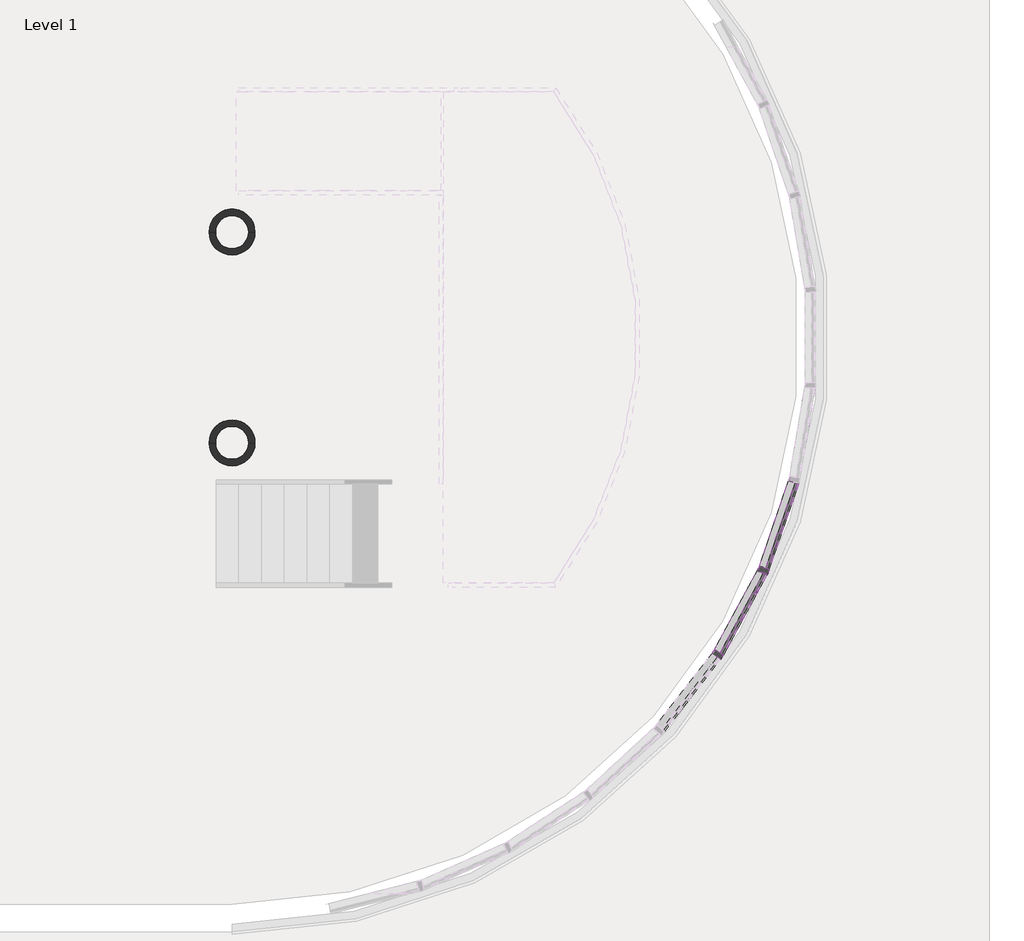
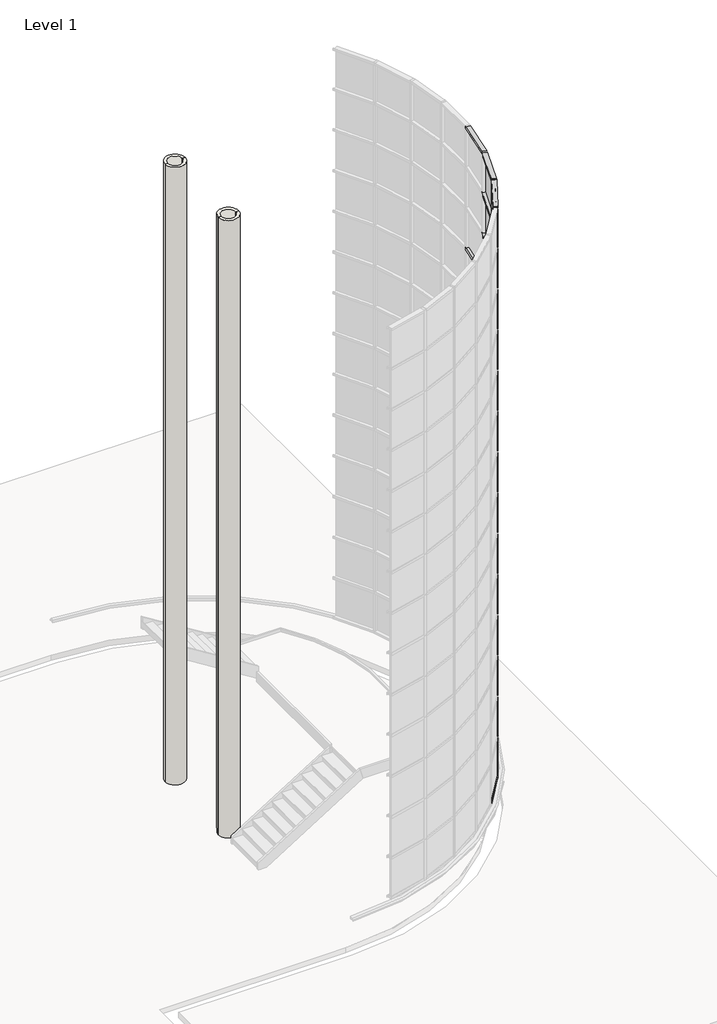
# One storey, part 7 of 20: 71 members, 28 plates, 4 walls.
"""IFC4 building model written with IfcOpenShell, lengths in millimetres."""

from ifc_helpers import new_model, si_unit, point, frame_2d, origin, origin_with_axes, place, context, project, spatial, polyline, circle_curve, trimmed, segment, composite_curve, outline, extrude, transform, mapped, element, save
from components import member_68fe8548, member_f830fa99, member_935f61b8, system_panel_glazed_da602fa6, system_panel_glazed_77fd207e

model = new_model("IFC4")

# Units and contexts
model_context = context("Model", 3, world=origin())
ifc_project = project(units=[si_unit("LENGTHUNIT", "METRE", prefix="MILLI")], contexts=[model_context])

# Site, building, storey
site = spatial("IfcSite", under=ifc_project)
building = spatial("IfcBuilding", under=site)
storey = spatial("IfcBuildingStorey", under=building, Name="Level 1", Elevation=0.0)

# Members
placement = place(None, origin())
member_shape = member_68fe8548(model_context)
element("IfcMember", 1, ObjectType="Rectangular Mullion : 2.5\" x 5\" rectangular", at=placement, inside=storey, context=model_context, shape_type="MappedRepresentation", body=[
    mapped(member_shape, transform((24863.6962317, -4227.0110197, 17983.2), x_axis=(0.0, 0.0, 1.0), y_axis=(-0.9863613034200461, 0.16459459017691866, 0.0), z_axis=(-0.16459459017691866, -0.9863613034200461, 0.0))),
])
element("IfcMember", 2, ObjectType="Rectangular Mullion : 2.5\" x 5\" rectangular", at=placement, inside=storey, context=model_context, shape_type="MappedRepresentation", body=[
    mapped(member_shape, transform((24485.9375128, -5343.4790843, 17983.2), x_axis=(0.0, 0.0, 1.0), y_axis=(-0.9458172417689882, 0.3246994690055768, 0.0), z_axis=(-0.3246994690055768, -0.9458172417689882, 0.0))),
])
element("IfcMember", 3, ObjectType="Rectangular Mullion : 2.5\" x 5\" rectangular", at=placement, inside=storey, context=model_context, shape_type="MappedRepresentation", body=[
    mapped(member_shape, transform((23929.566327, -6382.5429382, 17983.2), x_axis=(0.0, 0.0, 1.0), y_axis=(-0.879473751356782, 0.47594739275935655, 0.0), z_axis=(-0.47594739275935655, -0.879473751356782, 0.0))),
])
element("IfcMember", 4, ObjectType="Rectangular Mullion : 2.5\" x 5\" rectangular", at=placement, inside=storey, context=model_context, shape_type="MappedRepresentation", body=[
    mapped(member_shape, transform((24848.1611453, -4288.3576885, 1092.2), x_axis=(0.0, 0.0, -1.0), y_axis=(-0.9458172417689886, 0.3246994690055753, 0.0), z_axis=(0.3246994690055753, 0.9458172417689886, 0.0))),
])
element("IfcMember", 5, ObjectType="Rectangular Mullion : 2.5\" x 5\" rectangular", at=placement, inside=storey, context=model_context, shape_type="MappedRepresentation", body=[
    mapped(member_shape, transform((24460.516975, -5401.4320734, 1092.2), x_axis=(0.0, 0.0, -1.0), y_axis=(-0.879473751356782, 0.47594739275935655, 0.0), z_axis=(0.47594739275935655, 0.879473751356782, 0.0))),
])
element("IfcMember", 6, ObjectType="Rectangular Mullion : 2.5\" x 5\" rectangular", at=placement, inside=storey, context=model_context, shape_type="MappedRepresentation", body=[
    mapped(member_shape, transform((23894.9537437, -6435.521441, 1092.2), x_axis=(0.0, 0.0, -1.0), y_axis=(-0.7891405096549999, 0.6142127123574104, 0.0), z_axis=(0.6142127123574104, 0.7891405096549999, 0.0))),
])
member_2_shape = member_f830fa99(model_context)
element("IfcMember", 7, ObjectType="Rectangular Mullion : 2.5\" x 5\" rectangular", at=placement, inside=storey, context=model_context, shape_type="MappedRepresentation", body=[
    mapped(member_2_shape, transform((24863.6962317, -4227.0110197, 2298.7), x_axis=(0.0, 0.0, 1.0), y_axis=(-0.9863613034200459, 0.16459459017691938, 0.0), z_axis=(-0.16459459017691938, -0.9863613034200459, 0.0))),
])
element("IfcMember", 8, ObjectType="Rectangular Mullion : 2.5\" x 5\" rectangular", at=placement, inside=storey, context=model_context, shape_type="MappedRepresentation", body=[
    mapped(member_2_shape, transform((24485.9375128, -5343.4790843, 2298.7), x_axis=(0.0, 0.0, 1.0), y_axis=(-0.9458172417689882, 0.3246994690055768, 0.0), z_axis=(-0.3246994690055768, -0.9458172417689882, 0.0))),
])
element("IfcMember", 9, ObjectType="Rectangular Mullion : 2.5\" x 5\" rectangular", at=placement, inside=storey, context=model_context, shape_type="MappedRepresentation", body=[
    mapped(member_2_shape, transform((23929.566327, -6382.5429382, 2298.7), x_axis=(0.0, 0.0, 1.0), y_axis=(-0.879473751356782, 0.47594739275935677, 0.0), z_axis=(-0.47594739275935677, -0.879473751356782, 0.0))),
])
element("IfcMember", 10, ObjectType="Rectangular Mullion : 2.5\" x 5\" rectangular", at=placement, inside=storey, context=model_context, shape_type="MappedRepresentation", body=[
    mapped(member_2_shape, transform((24863.6962317, -4227.0110197, 3505.2), x_axis=(0.0, 0.0, 1.0), y_axis=(-0.9863613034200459, 0.16459459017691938, 0.0), z_axis=(-0.16459459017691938, -0.9863613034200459, 0.0))),
])
element("IfcMember", 11, ObjectType="Rectangular Mullion : 2.5\" x 5\" rectangular", at=placement, inside=storey, context=model_context, shape_type="MappedRepresentation", body=[
    mapped(member_2_shape, transform((24485.9375128, -5343.4790843, 3505.2), x_axis=(0.0, 0.0, 1.0), y_axis=(-0.9458172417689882, 0.3246994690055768, 0.0), z_axis=(-0.3246994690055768, -0.9458172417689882, 0.0))),
])
element("IfcMember", 12, ObjectType="Rectangular Mullion : 2.5\" x 5\" rectangular", at=placement, inside=storey, context=model_context, shape_type="MappedRepresentation", body=[
    mapped(member_2_shape, transform((23929.566327, -6382.5429382, 3505.2), x_axis=(0.0, 0.0, 1.0), y_axis=(-0.879473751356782, 0.47594739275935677, 0.0), z_axis=(-0.47594739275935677, -0.879473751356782, 0.0))),
])
element("IfcMember", 13, ObjectType="Rectangular Mullion : 2.5\" x 5\" rectangular", at=placement, inside=storey, context=model_context, shape_type="MappedRepresentation", body=[
    mapped(member_2_shape, transform((24863.6962317, -4227.0110197, 4711.7), x_axis=(0.0, 0.0, 1.0), y_axis=(-0.9863613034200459, 0.16459459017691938, 0.0), z_axis=(-0.16459459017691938, -0.9863613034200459, 0.0))),
])
element("IfcMember", 14, ObjectType="Rectangular Mullion : 2.5\" x 5\" rectangular", at=placement, inside=storey, context=model_context, shape_type="MappedRepresentation", body=[
    mapped(member_2_shape, transform((24485.9375128, -5343.4790843, 4711.7), x_axis=(0.0, 0.0, 1.0), y_axis=(-0.9458172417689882, 0.3246994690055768, 0.0), z_axis=(-0.3246994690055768, -0.9458172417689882, 0.0))),
])
element("IfcMember", 15, ObjectType="Rectangular Mullion : 2.5\" x 5\" rectangular", at=placement, inside=storey, context=model_context, shape_type="MappedRepresentation", body=[
    mapped(member_2_shape, transform((23929.566327, -6382.5429382, 4711.7), x_axis=(0.0, 0.0, 1.0), y_axis=(-0.879473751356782, 0.47594739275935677, 0.0), z_axis=(-0.47594739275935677, -0.879473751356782, 0.0))),
])
element("IfcMember", 16, ObjectType="Rectangular Mullion : 2.5\" x 5\" rectangular", at=placement, inside=storey, context=model_context, shape_type="MappedRepresentation", body=[
    mapped(member_2_shape, transform((24863.6962317, -4227.0110197, 5918.2), x_axis=(0.0, 0.0, 1.0), y_axis=(-0.9863613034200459, 0.16459459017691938, 0.0), z_axis=(-0.16459459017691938, -0.9863613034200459, 0.0))),
])
element("IfcMember", 17, ObjectType="Rectangular Mullion : 2.5\" x 5\" rectangular", at=placement, inside=storey, context=model_context, shape_type="MappedRepresentation", body=[
    mapped(member_2_shape, transform((24485.9375128, -5343.4790843, 5918.2), x_axis=(0.0, 0.0, 1.0), y_axis=(-0.9458172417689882, 0.3246994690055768, 0.0), z_axis=(-0.3246994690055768, -0.9458172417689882, 0.0))),
])
element("IfcMember", 18, ObjectType="Rectangular Mullion : 2.5\" x 5\" rectangular", at=placement, inside=storey, context=model_context, shape_type="MappedRepresentation", body=[
    mapped(member_2_shape, transform((23929.566327, -6382.5429382, 5918.2), x_axis=(0.0, 0.0, 1.0), y_axis=(-0.879473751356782, 0.47594739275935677, 0.0), z_axis=(-0.47594739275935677, -0.879473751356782, 0.0))),
])
element("IfcMember", 19, ObjectType="Rectangular Mullion : 2.5\" x 5\" rectangular", at=placement, inside=storey, context=model_context, shape_type="MappedRepresentation", body=[
    mapped(member_2_shape, transform((24863.6962317, -4227.0110197, 7124.7), x_axis=(0.0, 0.0, 1.0), y_axis=(-0.9863613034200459, 0.1645945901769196, 0.0), z_axis=(-0.1645945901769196, -0.9863613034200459, 0.0))),
])
element("IfcMember", 20, ObjectType="Rectangular Mullion : 2.5\" x 5\" rectangular", at=placement, inside=storey, context=model_context, shape_type="MappedRepresentation", body=[
    mapped(member_2_shape, transform((24485.9375128, -5343.4790843, 7124.7), x_axis=(0.0, 0.0, 1.0), y_axis=(-0.9458172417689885, 0.32469946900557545, 0.0), z_axis=(-0.32469946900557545, -0.9458172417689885, 0.0))),
])
element("IfcMember", 21, ObjectType="Rectangular Mullion : 2.5\" x 5\" rectangular", at=placement, inside=storey, context=model_context, shape_type="MappedRepresentation", body=[
    mapped(member_2_shape, transform((23929.566327, -6382.5429382, 7124.7), x_axis=(0.0, 0.0, 1.0), y_axis=(-0.879473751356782, 0.47594739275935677, 0.0), z_axis=(-0.47594739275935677, -0.879473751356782, 0.0))),
])
element("IfcMember", 22, ObjectType="Rectangular Mullion : 2.5\" x 5\" rectangular", at=placement, inside=storey, context=model_context, shape_type="MappedRepresentation", body=[
    mapped(member_2_shape, transform((24863.6962317, -4227.0110197, 8331.2), x_axis=(0.0, 0.0, 1.0), y_axis=(-0.9863613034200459, 0.1645945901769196, 0.0), z_axis=(-0.1645945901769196, -0.9863613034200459, 0.0))),
])
element("IfcMember", 23, ObjectType="Rectangular Mullion : 2.5\" x 5\" rectangular", at=placement, inside=storey, context=model_context, shape_type="MappedRepresentation", body=[
    mapped(member_2_shape, transform((24485.9375128, -5343.4790843, 8331.2), x_axis=(0.0, 0.0, 1.0), y_axis=(-0.9458172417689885, 0.32469946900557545, 0.0), z_axis=(-0.32469946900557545, -0.9458172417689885, 0.0))),
])
element("IfcMember", 24, ObjectType="Rectangular Mullion : 2.5\" x 5\" rectangular", at=placement, inside=storey, context=model_context, shape_type="MappedRepresentation", body=[
    mapped(member_2_shape, transform((23929.566327, -6382.5429382, 8331.2), x_axis=(0.0, 0.0, 1.0), y_axis=(-0.879473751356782, 0.47594739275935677, 0.0), z_axis=(-0.47594739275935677, -0.879473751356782, 0.0))),
])
element("IfcMember", 25, ObjectType="Rectangular Mullion : 2.5\" x 5\" rectangular", at=placement, inside=storey, context=model_context, shape_type="MappedRepresentation", body=[
    mapped(member_2_shape, transform((24863.6962317, -4227.0110197, 9537.7), x_axis=(0.0, 0.0, 1.0), y_axis=(-0.9863613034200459, 0.1645945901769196, 0.0), z_axis=(-0.1645945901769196, -0.9863613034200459, 0.0))),
])
element("IfcMember", 26, ObjectType="Rectangular Mullion : 2.5\" x 5\" rectangular", at=placement, inside=storey, context=model_context, shape_type="MappedRepresentation", body=[
    mapped(member_2_shape, transform((24485.9375128, -5343.4790843, 9537.7), x_axis=(0.0, 0.0, 1.0), y_axis=(-0.9458172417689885, 0.32469946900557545, 0.0), z_axis=(-0.32469946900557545, -0.9458172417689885, 0.0))),
])
element("IfcMember", 27, ObjectType="Rectangular Mullion : 2.5\" x 5\" rectangular", at=placement, inside=storey, context=model_context, shape_type="MappedRepresentation", body=[
    mapped(member_2_shape, transform((23929.566327, -6382.5429382, 9537.7), x_axis=(0.0, 0.0, 1.0), y_axis=(-0.879473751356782, 0.47594739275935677, 0.0), z_axis=(-0.47594739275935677, -0.879473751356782, 0.0))),
])
element("IfcMember", 28, ObjectType="Rectangular Mullion : 2.5\" x 5\" rectangular", at=placement, inside=storey, context=model_context, shape_type="MappedRepresentation", body=[
    mapped(member_2_shape, transform((24863.6962317, -4227.0110197, 10744.2), x_axis=(0.0, 0.0, 1.0), y_axis=(-0.9863613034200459, 0.1645945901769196, 0.0), z_axis=(-0.1645945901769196, -0.9863613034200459, 0.0))),
])
element("IfcMember", 29, ObjectType="Rectangular Mullion : 2.5\" x 5\" rectangular", at=placement, inside=storey, context=model_context, shape_type="MappedRepresentation", body=[
    mapped(member_2_shape, transform((24485.9375128, -5343.4790843, 10744.2), x_axis=(0.0, 0.0, 1.0), y_axis=(-0.9458172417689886, 0.3246994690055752, 0.0), z_axis=(-0.3246994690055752, -0.9458172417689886, 0.0))),
])
element("IfcMember", 30, ObjectType="Rectangular Mullion : 2.5\" x 5\" rectangular", at=placement, inside=storey, context=model_context, shape_type="MappedRepresentation", body=[
    mapped(member_2_shape, transform((23929.566327, -6382.5429382, 10744.2), x_axis=(0.0, 0.0, 1.0), y_axis=(-0.8794737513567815, 0.47594739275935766, 0.0), z_axis=(-0.47594739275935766, -0.8794737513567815, 0.0))),
])
element("IfcMember", 31, ObjectType="Rectangular Mullion : 2.5\" x 5\" rectangular", at=placement, inside=storey, context=model_context, shape_type="MappedRepresentation", body=[
    mapped(member_2_shape, transform((24863.6962317, -4227.0110197, 11950.7), x_axis=(0.0, 0.0, 1.0), y_axis=(-0.9863613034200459, 0.1645945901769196, 0.0), z_axis=(-0.1645945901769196, -0.9863613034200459, 0.0))),
])
element("IfcMember", 32, ObjectType="Rectangular Mullion : 2.5\" x 5\" rectangular", at=placement, inside=storey, context=model_context, shape_type="MappedRepresentation", body=[
    mapped(member_2_shape, transform((24485.9375128, -5343.4790843, 11950.7), x_axis=(0.0, 0.0, 1.0), y_axis=(-0.9458172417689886, 0.3246994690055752, 0.0), z_axis=(-0.3246994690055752, -0.9458172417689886, 0.0))),
])
element("IfcMember", 33, ObjectType="Rectangular Mullion : 2.5\" x 5\" rectangular", at=placement, inside=storey, context=model_context, shape_type="MappedRepresentation", body=[
    mapped(member_2_shape, transform((23929.566327, -6382.5429382, 11950.7), x_axis=(0.0, 0.0, 1.0), y_axis=(-0.8794737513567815, 0.47594739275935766, 0.0), z_axis=(-0.47594739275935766, -0.8794737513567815, 0.0))),
])
element("IfcMember", 34, ObjectType="Rectangular Mullion : 2.5\" x 5\" rectangular", at=placement, inside=storey, context=model_context, shape_type="MappedRepresentation", body=[
    mapped(member_2_shape, transform((24863.6962317, -4227.0110197, 13157.2), x_axis=(0.0, 0.0, 1.0), y_axis=(-0.9863613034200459, 0.1645945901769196, 0.0), z_axis=(-0.1645945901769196, -0.9863613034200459, 0.0))),
])
element("IfcMember", 35, ObjectType="Rectangular Mullion : 2.5\" x 5\" rectangular", at=placement, inside=storey, context=model_context, shape_type="MappedRepresentation", body=[
    mapped(member_2_shape, transform((24485.9375128, -5343.4790843, 13157.2), x_axis=(0.0, 0.0, 1.0), y_axis=(-0.9458172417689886, 0.3246994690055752, 0.0), z_axis=(-0.3246994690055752, -0.9458172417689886, 0.0))),
])
element("IfcMember", 36, ObjectType="Rectangular Mullion : 2.5\" x 5\" rectangular", at=placement, inside=storey, context=model_context, shape_type="MappedRepresentation", body=[
    mapped(member_2_shape, transform((23929.566327, -6382.5429382, 13157.2), x_axis=(0.0, 0.0, 1.0), y_axis=(-0.8794737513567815, 0.47594739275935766, 0.0), z_axis=(-0.47594739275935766, -0.8794737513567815, 0.0))),
])
element("IfcMember", 37, ObjectType="Rectangular Mullion : 2.5\" x 5\" rectangular", at=placement, inside=storey, context=model_context, shape_type="MappedRepresentation", body=[
    mapped(member_2_shape, transform((24863.6962317, -4227.0110197, 14363.7), x_axis=(0.0, 0.0, 1.0), y_axis=(-0.9863613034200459, 0.1645945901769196, 0.0), z_axis=(-0.1645945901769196, -0.9863613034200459, 0.0))),
])
element("IfcMember", 38, ObjectType="Rectangular Mullion : 2.5\" x 5\" rectangular", at=placement, inside=storey, context=model_context, shape_type="MappedRepresentation", body=[
    mapped(member_2_shape, transform((24485.9375128, -5343.4790843, 14363.7), x_axis=(0.0, 0.0, 1.0), y_axis=(-0.9458172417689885, 0.32469946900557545, 0.0), z_axis=(-0.32469946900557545, -0.9458172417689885, 0.0))),
])
element("IfcMember", 39, ObjectType="Rectangular Mullion : 2.5\" x 5\" rectangular", at=placement, inside=storey, context=model_context, shape_type="MappedRepresentation", body=[
    mapped(member_2_shape, transform((23929.566327, -6382.5429382, 14363.7), x_axis=(0.0, 0.0, 1.0), y_axis=(-0.879473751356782, 0.47594739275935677, 0.0), z_axis=(-0.47594739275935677, -0.879473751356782, 0.0))),
])
element("IfcMember", 40, ObjectType="Rectangular Mullion : 2.5\" x 5\" rectangular", at=placement, inside=storey, context=model_context, shape_type="MappedRepresentation", body=[
    mapped(member_2_shape, transform((24485.9375128, -5343.4790843, 15570.2), x_axis=(0.0, 0.0, 1.0), y_axis=(-0.9458172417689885, 0.32469946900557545, 0.0), z_axis=(-0.32469946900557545, -0.9458172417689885, 0.0))),
])
element("IfcMember", 41, ObjectType="Rectangular Mullion : 2.5\" x 5\" rectangular", at=placement, inside=storey, context=model_context, shape_type="MappedRepresentation", body=[
    mapped(member_2_shape, transform((23929.566327, -6382.5429382, 15570.2), x_axis=(0.0, 0.0, 1.0), y_axis=(-0.879473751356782, 0.47594739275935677, 0.0), z_axis=(-0.47594739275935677, -0.879473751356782, 0.0))),
])
element("IfcMember", 42, ObjectType="Rectangular Mullion : 2.5\" x 5\" rectangular", at=placement, inside=storey, context=model_context, shape_type="MappedRepresentation", body=[
    mapped(member_2_shape, transform((24485.9375128, -5343.4790843, 16776.7), x_axis=(0.0, 0.0, 1.0), y_axis=(-0.9458172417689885, 0.32469946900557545, 0.0), z_axis=(-0.32469946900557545, -0.9458172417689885, 0.0))),
])
element("IfcMember", 43, ObjectType="Rectangular Mullion : 2.5\" x 5\" rectangular", at=placement, inside=storey, context=model_context, shape_type="MappedRepresentation", body=[
    mapped(member_2_shape, transform((23929.566327, -6382.5429382, 16776.7), x_axis=(0.0, 0.0, 1.0), y_axis=(-0.879473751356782, 0.47594739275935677, 0.0), z_axis=(-0.47594739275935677, -0.879473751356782, 0.0))),
])
member_3_shape = member_935f61b8(model_context)
element("IfcMember", 44, ObjectType="Rectangular Mullion : 2.5\" x 5\" rectangular", at=placement, inside=storey, context=model_context, shape_type="MappedRepresentation", body=[
    mapped(member_3_shape, transform((24475.6283047, -5373.5087818, 1092.2), x_axis=(-0.4016954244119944, -0.915773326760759, 0.0), y_axis=(-0.915773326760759, 0.4016954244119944, 0.0), z_axis=(0.0, 0.0, -1.0))),
])
element("IfcMember", 45, ObjectType="Rectangular Mullion : 2.5\" x 5\" rectangular", at=placement, inside=storey, context=model_context, shape_type="MappedRepresentation", body=[
    mapped(member_3_shape, transform((23914.4549973, -6410.4662299, 1092.2), x_axis=(-0.5469481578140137, -0.8371664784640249, 0.0), y_axis=(-0.8371664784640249, 0.5469481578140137, 0.0), z_axis=(0.0, 0.0, -1.0))),
])
element("IfcMember", 46, ObjectType="Rectangular Mullion : 2.5\" x 5\" rectangular", at=placement, inside=storey, context=model_context, shape_type="MappedRepresentation", body=[
    mapped(member_3_shape, transform((24475.6283047, -5373.5087818, 2298.7), x_axis=(-0.4016954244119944, -0.915773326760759, 0.0), y_axis=(-0.915773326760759, 0.4016954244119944, 0.0), z_axis=(0.0, 0.0, -1.0))),
])
element("IfcMember", 47, ObjectType="Rectangular Mullion : 2.5\" x 5\" rectangular", at=placement, inside=storey, context=model_context, shape_type="MappedRepresentation", body=[
    mapped(member_3_shape, transform((23914.4549973, -6410.4662299, 2298.7), x_axis=(-0.5469481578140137, -0.8371664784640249, 0.0), y_axis=(-0.8371664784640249, 0.5469481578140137, 0.0), z_axis=(0.0, 0.0, -1.0))),
])
element("IfcMember", 48, ObjectType="Rectangular Mullion : 2.5\" x 5\" rectangular", at=placement, inside=storey, context=model_context, shape_type="MappedRepresentation", body=[
    mapped(member_3_shape, transform((24475.6283047, -5373.5087818, 3505.2), x_axis=(-0.4016954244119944, -0.915773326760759, 0.0), y_axis=(-0.915773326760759, 0.4016954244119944, 0.0), z_axis=(0.0, 0.0, -1.0))),
])
element("IfcMember", 49, ObjectType="Rectangular Mullion : 2.5\" x 5\" rectangular", at=placement, inside=storey, context=model_context, shape_type="MappedRepresentation", body=[
    mapped(member_3_shape, transform((23914.4549973, -6410.4662299, 3505.2), x_axis=(-0.5469481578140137, -0.8371664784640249, 0.0), y_axis=(-0.8371664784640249, 0.5469481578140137, 0.0), z_axis=(0.0, 0.0, -1.0))),
])
element("IfcMember", 50, ObjectType="Rectangular Mullion : 2.5\" x 5\" rectangular", at=placement, inside=storey, context=model_context, shape_type="MappedRepresentation", body=[
    mapped(member_3_shape, transform((24475.6283047, -5373.5087818, 4711.7), x_axis=(-0.4016954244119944, -0.915773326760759, 0.0), y_axis=(-0.915773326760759, 0.4016954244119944, 0.0), z_axis=(0.0, 0.0, -1.0))),
])
element("IfcMember", 51, ObjectType="Rectangular Mullion : 2.5\" x 5\" rectangular", at=placement, inside=storey, context=model_context, shape_type="MappedRepresentation", body=[
    mapped(member_3_shape, transform((23914.4549973, -6410.4662299, 4711.7), x_axis=(-0.5469481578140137, -0.8371664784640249, 0.0), y_axis=(-0.8371664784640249, 0.5469481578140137, 0.0), z_axis=(0.0, 0.0, -1.0))),
])
element("IfcMember", 52, ObjectType="Rectangular Mullion : 2.5\" x 5\" rectangular", at=placement, inside=storey, context=model_context, shape_type="MappedRepresentation", body=[
    mapped(member_3_shape, transform((24475.6283047, -5373.5087818, 5918.2), x_axis=(-0.4016954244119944, -0.915773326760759, 0.0), y_axis=(-0.915773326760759, 0.4016954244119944, 0.0), z_axis=(0.0, 0.0, -1.0))),
])
element("IfcMember", 53, ObjectType="Rectangular Mullion : 2.5\" x 5\" rectangular", at=placement, inside=storey, context=model_context, shape_type="MappedRepresentation", body=[
    mapped(member_3_shape, transform((23914.4549973, -6410.4662299, 5918.2), x_axis=(-0.5469481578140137, -0.8371664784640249, 0.0), y_axis=(-0.8371664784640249, 0.5469481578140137, 0.0), z_axis=(0.0, 0.0, -1.0))),
])
element("IfcMember", 54, ObjectType="Rectangular Mullion : 2.5\" x 5\" rectangular", at=placement, inside=storey, context=model_context, shape_type="MappedRepresentation", body=[
    mapped(member_3_shape, transform((24475.6283047, -5373.5087818, 7124.7), x_axis=(-0.4016954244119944, -0.915773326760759, 0.0), y_axis=(-0.915773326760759, 0.4016954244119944, 0.0), z_axis=(0.0, 0.0, -1.0))),
])
element("IfcMember", 55, ObjectType="Rectangular Mullion : 2.5\" x 5\" rectangular", at=placement, inside=storey, context=model_context, shape_type="MappedRepresentation", body=[
    mapped(member_3_shape, transform((23914.4549973, -6410.4662299, 7124.7), x_axis=(-0.5469481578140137, -0.8371664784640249, 0.0), y_axis=(-0.8371664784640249, 0.5469481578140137, 0.0), z_axis=(0.0, 0.0, -1.0))),
])
element("IfcMember", 56, ObjectType="Rectangular Mullion : 2.5\" x 5\" rectangular", at=placement, inside=storey, context=model_context, shape_type="MappedRepresentation", body=[
    mapped(member_3_shape, transform((24475.6283047, -5373.5087818, 8331.2), x_axis=(-0.4016954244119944, -0.915773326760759, 0.0), y_axis=(-0.915773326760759, 0.4016954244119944, 0.0), z_axis=(0.0, 0.0, -1.0))),
])
element("IfcMember", 57, ObjectType="Rectangular Mullion : 2.5\" x 5\" rectangular", at=placement, inside=storey, context=model_context, shape_type="MappedRepresentation", body=[
    mapped(member_3_shape, transform((23914.4549973, -6410.4662299, 8331.2), x_axis=(-0.5469481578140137, -0.8371664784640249, 0.0), y_axis=(-0.8371664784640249, 0.5469481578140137, 0.0), z_axis=(0.0, 0.0, -1.0))),
])
element("IfcMember", 58, ObjectType="Rectangular Mullion : 2.5\" x 5\" rectangular", at=placement, inside=storey, context=model_context, shape_type="MappedRepresentation", body=[
    mapped(member_3_shape, transform((24475.6283047, -5373.5087818, 9537.7), x_axis=(-0.4016954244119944, -0.915773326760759, 0.0), y_axis=(-0.915773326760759, 0.4016954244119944, 0.0), z_axis=(0.0, 0.0, -1.0))),
])
element("IfcMember", 59, ObjectType="Rectangular Mullion : 2.5\" x 5\" rectangular", at=placement, inside=storey, context=model_context, shape_type="MappedRepresentation", body=[
    mapped(member_3_shape, transform((23914.4549973, -6410.4662299, 9537.7), x_axis=(-0.5469481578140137, -0.8371664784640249, 0.0), y_axis=(-0.8371664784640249, 0.5469481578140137, 0.0), z_axis=(0.0, 0.0, -1.0))),
])
element("IfcMember", 60, ObjectType="Rectangular Mullion : 2.5\" x 5\" rectangular", at=placement, inside=storey, context=model_context, shape_type="MappedRepresentation", body=[
    mapped(member_3_shape, transform((24475.6283047, -5373.5087818, 10744.2), x_axis=(-0.4016954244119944, -0.915773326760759, 0.0), y_axis=(-0.915773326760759, 0.4016954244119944, 0.0), z_axis=(0.0, 0.0, -1.0))),
])
element("IfcMember", 61, ObjectType="Rectangular Mullion : 2.5\" x 5\" rectangular", at=placement, inside=storey, context=model_context, shape_type="MappedRepresentation", body=[
    mapped(member_3_shape, transform((23914.4549973, -6410.4662299, 10744.2), x_axis=(-0.5469481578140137, -0.8371664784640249, 0.0), y_axis=(-0.8371664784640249, 0.5469481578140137, 0.0), z_axis=(0.0, 0.0, -1.0))),
])
element("IfcMember", 62, ObjectType="Rectangular Mullion : 2.5\" x 5\" rectangular", at=placement, inside=storey, context=model_context, shape_type="MappedRepresentation", body=[
    mapped(member_3_shape, transform((24475.6283047, -5373.5087818, 11950.7), x_axis=(-0.4016954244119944, -0.915773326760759, 0.0), y_axis=(-0.915773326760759, 0.4016954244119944, 0.0), z_axis=(0.0, 0.0, -1.0))),
])
element("IfcMember", 63, ObjectType="Rectangular Mullion : 2.5\" x 5\" rectangular", at=placement, inside=storey, context=model_context, shape_type="MappedRepresentation", body=[
    mapped(member_3_shape, transform((23914.4549973, -6410.4662299, 11950.7), x_axis=(-0.5469481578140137, -0.8371664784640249, 0.0), y_axis=(-0.8371664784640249, 0.5469481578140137, 0.0), z_axis=(0.0, 0.0, -1.0))),
])
element("IfcMember", 64, ObjectType="Rectangular Mullion : 2.5\" x 5\" rectangular", at=placement, inside=storey, context=model_context, shape_type="MappedRepresentation", body=[
    mapped(member_3_shape, transform((24475.6283047, -5373.5087818, 13157.2), x_axis=(-0.4016954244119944, -0.915773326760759, 0.0), y_axis=(-0.915773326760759, 0.4016954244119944, 0.0), z_axis=(0.0, 0.0, -1.0))),
])
element("IfcMember", 65, ObjectType="Rectangular Mullion : 2.5\" x 5\" rectangular", at=placement, inside=storey, context=model_context, shape_type="MappedRepresentation", body=[
    mapped(member_3_shape, transform((23914.4549973, -6410.4662299, 13157.2), x_axis=(-0.5469481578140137, -0.8371664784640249, 0.0), y_axis=(-0.8371664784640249, 0.5469481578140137, 0.0), z_axis=(0.0, 0.0, -1.0))),
])
element("IfcMember", 66, ObjectType="Rectangular Mullion : 2.5\" x 5\" rectangular", at=placement, inside=storey, context=model_context, shape_type="MappedRepresentation", body=[
    mapped(member_3_shape, transform((24475.6283047, -5373.5087818, 14363.7), x_axis=(-0.4016954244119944, -0.915773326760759, 0.0), y_axis=(-0.915773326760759, 0.4016954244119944, 0.0), z_axis=(0.0, 0.0, -1.0))),
])
element("IfcMember", 67, ObjectType="Rectangular Mullion : 2.5\" x 5\" rectangular", at=placement, inside=storey, context=model_context, shape_type="MappedRepresentation", body=[
    mapped(member_3_shape, transform((23914.4549973, -6410.4662299, 14363.7), x_axis=(-0.5469481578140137, -0.8371664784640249, 0.0), y_axis=(-0.8371664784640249, 0.5469481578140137, 0.0), z_axis=(0.0, 0.0, -1.0))),
])
element("IfcMember", 68, ObjectType="Rectangular Mullion : 2.5\" x 5\" rectangular", at=placement, inside=storey, context=model_context, shape_type="MappedRepresentation", body=[
    mapped(member_3_shape, transform((24475.6283047, -5373.5087818, 15570.2), x_axis=(-0.4016954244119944, -0.915773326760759, 0.0), y_axis=(-0.915773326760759, 0.4016954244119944, 0.0), z_axis=(0.0, 0.0, -1.0))),
])
element("IfcMember", 69, ObjectType="Rectangular Mullion : 2.5\" x 5\" rectangular", at=placement, inside=storey, context=model_context, shape_type="MappedRepresentation", body=[
    mapped(member_3_shape, transform((23914.4549973, -6410.4662299, 15570.2), x_axis=(-0.5469481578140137, -0.8371664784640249, 0.0), y_axis=(-0.8371664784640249, 0.5469481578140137, 0.0), z_axis=(0.0, 0.0, -1.0))),
])
element("IfcMember", 70, ObjectType="Rectangular Mullion : 2.5\" x 5\" rectangular", at=placement, inside=storey, context=model_context, shape_type="MappedRepresentation", body=[
    mapped(member_3_shape, transform((24475.6283047, -5373.5087818, 16776.7), x_axis=(-0.4016954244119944, -0.915773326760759, 0.0), y_axis=(-0.915773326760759, 0.4016954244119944, 0.0), z_axis=(0.0, 0.0, -1.0))),
])
element("IfcMember", 71, ObjectType="Rectangular Mullion : 2.5\" x 5\" rectangular", at=placement, inside=storey, context=model_context, shape_type="MappedRepresentation", body=[
    mapped(member_3_shape, transform((23914.4549973, -6410.4662299, 16776.7), x_axis=(-0.5469481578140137, -0.8371664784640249, 0.0), y_axis=(-0.8371664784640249, 0.5469481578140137, 0.0), z_axis=(0.0, 0.0, -1.0))),
])

# Plates
system_panel_glazed_shape = system_panel_glazed_da602fa6(model_context)
element("IfcPlate", 72, ObjectType="System Panel : Glazed", at=placement, inside=storey, context=model_context, shape_type="MappedRepresentation", body=[
    mapped(system_panel_glazed_shape, transform((24667.049329, -4815.9183864, 1155.7), x_axis=(-0.32469946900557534, -0.9458172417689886, 0.0), y_axis=(0.9458172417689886, -0.32469946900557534, 0.0), z_axis=(0.0, 0.0, 1.0))),
])
element("IfcPlate", 73, ObjectType="System Panel : Glazed", at=placement, inside=storey, context=model_context, shape_type="MappedRepresentation", body=[
    mapped(system_panel_glazed_shape, transform((24195.041651, -5891.9875058, 1155.7), x_axis=(-0.47594739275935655, -0.879473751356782, 0.0), y_axis=(0.879473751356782, -0.47594739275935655, 0.0), z_axis=(0.0, 0.0, 1.0))),
])
element("IfcPlate", 74, ObjectType="System Panel : Glazed", at=placement, inside=storey, context=model_context, shape_type="MappedRepresentation", body=[
    mapped(system_panel_glazed_shape, transform((24667.049329, -4815.9183864, 16808.45), x_axis=(-0.3246994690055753, -0.9458172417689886, 0.0), y_axis=(0.9458172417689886, -0.3246994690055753, 0.0), z_axis=(0.0, 0.0, 1.0))),
])
element("IfcPlate", 75, ObjectType="System Panel : Glazed", at=placement, inside=storey, context=model_context, shape_type="MappedRepresentation", body=[
    mapped(system_panel_glazed_shape, transform((24195.041651, -5891.9875058, 16808.45), x_axis=(-0.47594739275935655, -0.879473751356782, 0.0), y_axis=(0.879473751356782, -0.47594739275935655, 0.0), z_axis=(0.0, 0.0, 1.0))),
])
system_panel_glazed_2_shape = system_panel_glazed_77fd207e(model_context)
element("IfcPlate", 76, ObjectType="System Panel : Glazed", at=placement, inside=storey, context=model_context, shape_type="MappedRepresentation", body=[
    mapped(system_panel_glazed_2_shape, transform((24667.049329, -4815.9183864, 2330.45), x_axis=(-0.3246994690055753, -0.9458172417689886, 0.0), y_axis=(0.9458172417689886, -0.3246994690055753, 0.0), z_axis=(0.0, 0.0, 1.0))),
])
element("IfcPlate", 77, ObjectType="System Panel : Glazed", at=placement, inside=storey, context=model_context, shape_type="MappedRepresentation", body=[
    mapped(system_panel_glazed_2_shape, transform((24195.041651, -5891.9875058, 2330.45), x_axis=(-0.47594739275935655, -0.879473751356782, 0.0), y_axis=(0.879473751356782, -0.47594739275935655, 0.0), z_axis=(0.0, 0.0, 1.0))),
])
element("IfcPlate", 78, ObjectType="System Panel : Glazed", at=placement, inside=storey, context=model_context, shape_type="MappedRepresentation", body=[
    mapped(system_panel_glazed_2_shape, transform((24667.049329, -4815.9183864, 3536.95), x_axis=(-0.3246994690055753, -0.9458172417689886, 0.0), y_axis=(0.9458172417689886, -0.3246994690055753, 0.0), z_axis=(0.0, 0.0, 1.0))),
])
element("IfcPlate", 79, ObjectType="System Panel : Glazed", at=placement, inside=storey, context=model_context, shape_type="MappedRepresentation", body=[
    mapped(system_panel_glazed_2_shape, transform((24195.041651, -5891.9875058, 3536.95), x_axis=(-0.47594739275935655, -0.879473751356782, 0.0), y_axis=(0.879473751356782, -0.47594739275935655, 0.0), z_axis=(0.0, 0.0, 1.0))),
])
element("IfcPlate", 80, ObjectType="System Panel : Glazed", at=placement, inside=storey, context=model_context, shape_type="MappedRepresentation", body=[
    mapped(system_panel_glazed_2_shape, transform((24667.049329, -4815.9183864, 4743.45), x_axis=(-0.32469946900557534, -0.9458172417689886, 0.0), y_axis=(0.9458172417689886, -0.32469946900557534, 0.0), z_axis=(0.0, 0.0, 1.0))),
])
element("IfcPlate", 81, ObjectType="System Panel : Glazed", at=placement, inside=storey, context=model_context, shape_type="MappedRepresentation", body=[
    mapped(system_panel_glazed_2_shape, transform((24195.041651, -5891.9875058, 4743.45), x_axis=(-0.4759473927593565, -0.8794737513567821, 0.0), y_axis=(0.8794737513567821, -0.4759473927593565, 0.0), z_axis=(0.0, 0.0, 1.0))),
])
element("IfcPlate", 82, ObjectType="System Panel : Glazed", at=placement, inside=storey, context=model_context, shape_type="MappedRepresentation", body=[
    mapped(system_panel_glazed_2_shape, transform((24667.049329, -4815.9183864, 5949.95), x_axis=(-0.3246994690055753, -0.9458172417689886, 0.0), y_axis=(0.9458172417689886, -0.3246994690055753, 0.0), z_axis=(0.0, 0.0, 1.0))),
])
element("IfcPlate", 83, ObjectType="System Panel : Glazed", at=placement, inside=storey, context=model_context, shape_type="MappedRepresentation", body=[
    mapped(system_panel_glazed_2_shape, transform((24195.041651, -5891.9875058, 5949.95), x_axis=(-0.47594739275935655, -0.879473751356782, 0.0), y_axis=(0.879473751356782, -0.47594739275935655, 0.0), z_axis=(0.0, 0.0, 1.0))),
])
element("IfcPlate", 84, ObjectType="System Panel : Glazed", at=placement, inside=storey, context=model_context, shape_type="MappedRepresentation", body=[
    mapped(system_panel_glazed_2_shape, transform((24667.049329, -4815.9183864, 7156.45), x_axis=(-0.3246994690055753, -0.9458172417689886, 0.0), y_axis=(0.9458172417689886, -0.3246994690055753, 0.0), z_axis=(0.0, 0.0, 1.0))),
])
element("IfcPlate", 85, ObjectType="System Panel : Glazed", at=placement, inside=storey, context=model_context, shape_type="MappedRepresentation", body=[
    mapped(system_panel_glazed_2_shape, transform((24195.041651, -5891.9875058, 7156.45), x_axis=(-0.47594739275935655, -0.879473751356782, 0.0), y_axis=(0.879473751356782, -0.47594739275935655, 0.0), z_axis=(0.0, 0.0, 1.0))),
])
element("IfcPlate", 86, ObjectType="System Panel : Glazed", at=placement, inside=storey, context=model_context, shape_type="MappedRepresentation", body=[
    mapped(system_panel_glazed_2_shape, transform((24667.049329, -4815.9183864, 8362.95), x_axis=(-0.3246994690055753, -0.9458172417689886, 0.0), y_axis=(0.9458172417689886, -0.3246994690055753, 0.0), z_axis=(0.0, 0.0, 1.0))),
])
element("IfcPlate", 87, ObjectType="System Panel : Glazed", at=placement, inside=storey, context=model_context, shape_type="MappedRepresentation", body=[
    mapped(system_panel_glazed_2_shape, transform((24195.041651, -5891.9875058, 8362.95), x_axis=(-0.47594739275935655, -0.879473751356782, 0.0), y_axis=(0.879473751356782, -0.47594739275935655, 0.0), z_axis=(0.0, 0.0, 1.0))),
])
element("IfcPlate", 88, ObjectType="System Panel : Glazed", at=placement, inside=storey, context=model_context, shape_type="MappedRepresentation", body=[
    mapped(system_panel_glazed_2_shape, transform((24667.049329, -4815.9183864, 9569.45), x_axis=(-0.3246994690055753, -0.9458172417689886, 0.0), y_axis=(0.9458172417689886, -0.3246994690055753, 0.0), z_axis=(0.0, 0.0, 1.0))),
])
element("IfcPlate", 89, ObjectType="System Panel : Glazed", at=placement, inside=storey, context=model_context, shape_type="MappedRepresentation", body=[
    mapped(system_panel_glazed_2_shape, transform((24195.041651, -5891.9875058, 9569.45), x_axis=(-0.47594739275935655, -0.8794737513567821, 0.0), y_axis=(0.8794737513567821, -0.47594739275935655, 0.0), z_axis=(0.0, 0.0, 1.0))),
])
element("IfcPlate", 90, ObjectType="System Panel : Glazed", at=placement, inside=storey, context=model_context, shape_type="MappedRepresentation", body=[
    mapped(system_panel_glazed_2_shape, transform((24667.049329, -4815.9183864, 10775.95), x_axis=(-0.3246994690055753, -0.9458172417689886, 0.0), y_axis=(0.9458172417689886, -0.3246994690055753, 0.0), z_axis=(0.0, 0.0, 1.0))),
])
element("IfcPlate", 91, ObjectType="System Panel : Glazed", at=placement, inside=storey, context=model_context, shape_type="MappedRepresentation", body=[
    mapped(system_panel_glazed_2_shape, transform((24195.041651, -5891.9875058, 10775.95), x_axis=(-0.47594739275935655, -0.879473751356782, 0.0), y_axis=(0.879473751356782, -0.47594739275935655, 0.0), z_axis=(0.0, 0.0, 1.0))),
])
element("IfcPlate", 92, ObjectType="System Panel : Glazed", at=placement, inside=storey, context=model_context, shape_type="MappedRepresentation", body=[
    mapped(system_panel_glazed_2_shape, transform((24667.049329, -4815.9183864, 11982.45), x_axis=(-0.3246994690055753, -0.9458172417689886, 0.0), y_axis=(0.9458172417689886, -0.3246994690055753, 0.0), z_axis=(0.0, 0.0, 1.0))),
])
element("IfcPlate", 93, ObjectType="System Panel : Glazed", at=placement, inside=storey, context=model_context, shape_type="MappedRepresentation", body=[
    mapped(system_panel_glazed_2_shape, transform((24195.041651, -5891.9875058, 11982.45), x_axis=(-0.47594739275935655, -0.879473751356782, 0.0), y_axis=(0.879473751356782, -0.47594739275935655, 0.0), z_axis=(0.0, 0.0, 1.0))),
])
element("IfcPlate", 94, ObjectType="System Panel : Glazed", at=placement, inside=storey, context=model_context, shape_type="MappedRepresentation", body=[
    mapped(system_panel_glazed_2_shape, transform((24667.049329, -4815.9183864, 13188.95), x_axis=(-0.3246994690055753, -0.9458172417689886, 0.0), y_axis=(0.9458172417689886, -0.3246994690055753, 0.0), z_axis=(0.0, 0.0, 1.0))),
])
element("IfcPlate", 95, ObjectType="System Panel : Glazed", at=placement, inside=storey, context=model_context, shape_type="MappedRepresentation", body=[
    mapped(system_panel_glazed_2_shape, transform((24195.041651, -5891.9875058, 13188.95), x_axis=(-0.47594739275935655, -0.879473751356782, 0.0), y_axis=(0.879473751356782, -0.47594739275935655, 0.0), z_axis=(0.0, 0.0, 1.0))),
])
element("IfcPlate", 96, ObjectType="System Panel : Glazed", at=placement, inside=storey, context=model_context, shape_type="MappedRepresentation", body=[
    mapped(system_panel_glazed_2_shape, transform((24667.049329, -4815.9183864, 14395.45), x_axis=(-0.3246994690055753, -0.9458172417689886, 0.0), y_axis=(0.9458172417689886, -0.3246994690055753, 0.0), z_axis=(0.0, 0.0, 1.0))),
])
element("IfcPlate", 97, ObjectType="System Panel : Glazed", at=placement, inside=storey, context=model_context, shape_type="MappedRepresentation", body=[
    mapped(system_panel_glazed_2_shape, transform((24195.041651, -5891.9875058, 14395.45), x_axis=(-0.47594739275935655, -0.879473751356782, 0.0), y_axis=(0.879473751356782, -0.47594739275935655, 0.0), z_axis=(0.0, 0.0, 1.0))),
])
element("IfcPlate", 98, ObjectType="System Panel : Glazed", at=placement, inside=storey, context=model_context, shape_type="MappedRepresentation", body=[
    mapped(system_panel_glazed_2_shape, transform((24667.049329, -4815.9183864, 15601.95), x_axis=(-0.3246994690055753, -0.9458172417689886, 0.0), y_axis=(0.9458172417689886, -0.3246994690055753, 0.0), z_axis=(0.0, 0.0, 1.0))),
])
element("IfcPlate", 99, ObjectType="System Panel : Glazed", at=placement, inside=storey, context=model_context, shape_type="MappedRepresentation", body=[
    mapped(system_panel_glazed_2_shape, transform((24195.041651, -5891.9875058, 15601.95), x_axis=(-0.47594739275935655, -0.879473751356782, 0.0), y_axis=(0.879473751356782, -0.47594739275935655, 0.0), z_axis=(0.0, 0.0, 1.0))),
])

# Walls
element("IfcWall", 100, ObjectType="Interior - 3 1/8\" Partition (1-hr)", at=placement, inside=storey, context=model_context, shape_type="SweptSolid", body=[
    extrude(outline(composite_curve([segment(polyline([(17734.7339721, -1208.8226681), (17655.3589721, -1208.8226681)]), True, "CONTINUOUS"), segment(trimmed(circle_curve(frame_2d((17937.9339721, -1208.8226681)), 282.575), [point((17655.3589721, -1208.8226681))], [point((18220.5089721, -1208.8226681))], False, "CARTESIAN"), True, "CONTINUOUS"), segment(polyline([(18220.5089721, -1208.8226681), (18141.1339721, -1208.8226681)]), True, "CONTINUOUS"), segment(trimmed(circle_curve(frame_2d((17937.9339721, -1208.8226681)), 203.2), [point((18141.1339721, -1208.8226681))], [point((17734.7339721, -1208.8226681))], True, "CARTESIAN"), True, "CONTINUOUS")], self_intersect=False)), origin_with_axes(), (0.0, 0.0, 1.0), 18288.0),
])
element("IfcWall", 101, ObjectType="Interior - 3 1/8\" Partition (1-hr)", at=placement, inside=storey, context=model_context, shape_type="SweptSolid", body=[
    extrude(outline(composite_curve([segment(polyline([(18141.1339721, -1208.8226681), (18220.5089721, -1208.8226681)]), True, "CONTINUOUS"), segment(trimmed(circle_curve(frame_2d((17937.9339721, -1208.8226681)), 282.575), [point((18220.5089721, -1208.8226681))], [point((17655.3589721, -1208.8226681))], False, "CARTESIAN"), True, "CONTINUOUS"), segment(polyline([(17655.3589721, -1208.8226681), (17734.7339721, -1208.8226681)]), True, "CONTINUOUS"), segment(trimmed(circle_curve(frame_2d((17937.9339721, -1208.8226681)), 203.2), [point((17734.7339721, -1208.8226681))], [point((18141.1339721, -1208.8226681))], True, "CARTESIAN"), True, "CONTINUOUS")], self_intersect=False)), origin_with_axes(), (0.0, 0.0, 1.0), 18288.0),
])
element("IfcWall", 102, ObjectType="Interior - 3 1/8\" Partition (1-hr)", at=placement, inside=storey, context=model_context, shape_type="SweptSolid", body=[
    extrude(outline(composite_curve([segment(polyline([(17734.7339721, -3802.7976681), (17655.3589721, -3802.7976681)]), True, "CONTINUOUS"), segment(trimmed(circle_curve(frame_2d((17937.9339721, -3802.7976681)), 282.575), [point((17655.3589721, -3802.7976681))], [point((18220.5089721, -3802.7976681))], False, "CARTESIAN"), True, "CONTINUOUS"), segment(polyline([(18220.5089721, -3802.7976681), (18141.1339721, -3802.7976681)]), True, "CONTINUOUS"), segment(trimmed(circle_curve(frame_2d((17937.9339721, -3802.7976681)), 203.2), [point((18141.1339721, -3802.7976681))], [point((17734.7339721, -3802.7976681))], True, "CARTESIAN"), True, "CONTINUOUS")], self_intersect=False)), origin_with_axes(), (0.0, 0.0, 1.0), 18288.0),
])
element("IfcWall", 103, ObjectType="Interior - 3 1/8\" Partition (1-hr)", at=placement, inside=storey, context=model_context, shape_type="SweptSolid", body=[
    extrude(outline(composite_curve([segment(polyline([(18141.1339721, -3802.7976681), (18220.5089721, -3802.7976681)]), True, "CONTINUOUS"), segment(trimmed(circle_curve(frame_2d((17937.9339721, -3802.7976681)), 282.575), [point((18220.5089721, -3802.7976681))], [point((17655.3589721, -3802.7976681))], False, "CARTESIAN"), True, "CONTINUOUS"), segment(polyline([(17655.3589721, -3802.7976681), (17734.7339721, -3802.7976681)]), True, "CONTINUOUS"), segment(trimmed(circle_curve(frame_2d((17937.9339721, -3802.7976681)), 203.2), [point((17734.7339721, -3802.7976681))], [point((18141.1339721, -3802.7976681))], True, "CARTESIAN"), True, "CONTINUOUS")], self_intersect=False)), origin_with_axes(), (0.0, 0.0, 1.0), 18288.0),
])

save(model, "model.ifc")
